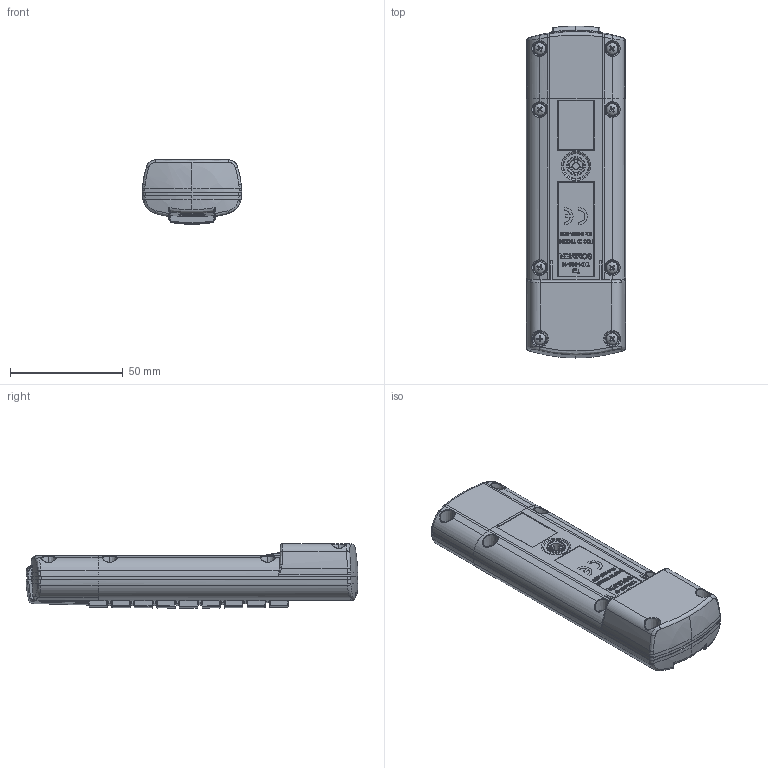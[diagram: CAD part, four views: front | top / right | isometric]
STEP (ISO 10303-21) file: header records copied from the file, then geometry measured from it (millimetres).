
FILE_DESCRIPTION (( 'STEP AP214' ), '1' );
FILE_NAME ('S10212_Telecody.STEP', '2017-12-06T08:00:23', ( '' ), ( '' ), 'SwSTEP 2.0', 'SolidWorks 2017', '' );
FILE_SCHEMA (( 'AUTOMOTIVE_DESIGN' ));
Length unit declared in the file: millimetre
Products named in the file (1): S10212_Telecody
Bounding box: 43.99 x 147 x 28.46 mm (x, y, z)
Volume: 61851.4 mm3; surface area: 82073.1 mm2
Topology: 35 solids, 35 shells, 5907 faces, 15480 edges, 9946 vertices
Faces by surface type: plane 3355, bspline 1171, cylinder 684, cone 435, torus 168, sphere 94
Entity records: 293030 total; most frequent: CARTESIAN_POINT 93680, ORIENTED_EDGE 30860, DIRECTION 23010, EDGE_CURVE 15430, VERTEX_POINT 9936, LINE 8570, VECTOR 8570, AXIS2_PLACEMENT_3D 7220
